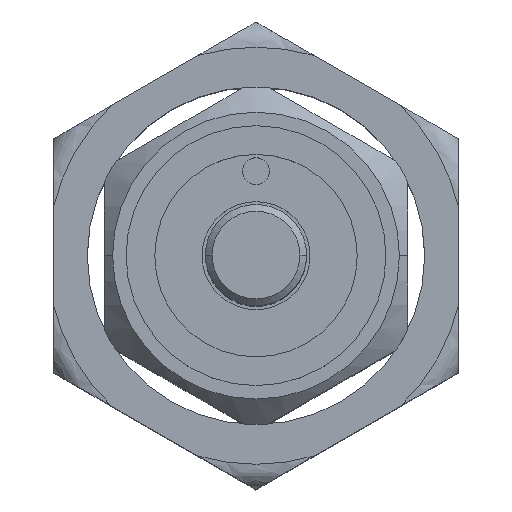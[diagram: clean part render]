
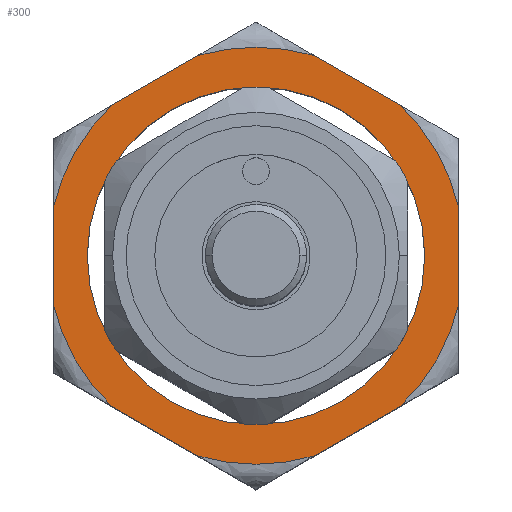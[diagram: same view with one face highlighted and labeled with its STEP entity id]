
A CAD part, top view. The second image highlights one B-rep face of the part: STEP entity #300.
In plain terms, the highlighted planar face has unit normal (0, 0, 1).
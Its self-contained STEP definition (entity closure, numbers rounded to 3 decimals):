
#9 = VECTOR ( 'NONE', #1923, 1000. ) ;
#38 = CARTESIAN_POINT ( 'NONE',  ( 6., 3.464, 1.5 ) ) ;
#42 = ORIENTED_EDGE ( 'NONE', *, *, #2252, .T. ) ;
#50 = AXIS2_PLACEMENT_3D ( 'NONE', #2752, #2087, #2103 ) ;
#52 = CARTESIAN_POINT ( 'NONE',  ( -5., 0., 1.5 ) ) ;
#62 = CARTESIAN_POINT ( 'NONE',  ( 0., 0., 1.5 ) ) ;
#65 = FACE_BOUND ( 'NONE', #651, .T. ) ;
#73 = ORIENTED_EDGE ( 'NONE', *, *, #1733, .T. ) ;
#78 = DIRECTION ( 'NONE',  ( 1., 0., 0. ) ) ;
#96 = EDGE_CURVE ( 'NONE', #738, #1986, #1861, .T. ) ;
#147 = ORIENTED_EDGE ( 'NONE', *, *, #494, .T. ) ;
#150 = AXIS2_PLACEMENT_3D ( 'NONE', #2158, #1271, #1978 ) ;
#177 = CARTESIAN_POINT ( 'NONE',  ( -6., -1.473, 1.5 ) ) ;
#203 = VERTEX_POINT ( 'NONE', #542 ) ;
#218 = CARTESIAN_POINT ( 'NONE',  ( 0., 0., 1.5 ) ) ;
#223 = EDGE_CURVE ( 'NONE', #229, #1201, #1283, .T. ) ;
#229 = VERTEX_POINT ( 'NONE', #764 ) ;
#253 = ORIENTED_EDGE ( 'NONE', *, *, #1080, .T. ) ;
#274 = EDGE_CURVE ( 'NONE', #636, #1286, #744, .T. ) ;
#300 = ADVANCED_FACE ( 'NONE', ( #65, #969 ), #1888, .T. ) ;
#301 = CARTESIAN_POINT ( 'NONE',  ( 6., -3.464, 1.5 ) ) ;
#312 = ORIENTED_EDGE ( 'NONE', *, *, #274, .T. ) ;
#313 = LINE ( 'NONE', #1625, #2903 ) ;
#338 = ORIENTED_EDGE ( 'NONE', *, *, #2684, .T. ) ;
#352 = CARTESIAN_POINT ( 'NONE',  ( 0., 0., 1.5 ) ) ;
#406 = VERTEX_POINT ( 'NONE', #806 ) ;
#473 = DIRECTION ( 'NONE',  ( 0., 0., 1. ) ) ;
#494 = EDGE_CURVE ( 'NONE', #2288, #636, #761, .T. ) ;
#542 = CARTESIAN_POINT ( 'NONE',  ( 1.724, -5.933, 1.5 ) ) ;
#571 = EDGE_CURVE ( 'NONE', #1286, #738, #707, .T. ) ;
#615 = AXIS2_PLACEMENT_3D ( 'NONE', #352, #1680, #2793 ) ;
#636 = VERTEX_POINT ( 'NONE', #1409 ) ;
#651 = EDGE_LOOP ( 'NONE', ( #2395, #751 ) ) ;
#670 = AXIS2_PLACEMENT_3D ( 'NONE', #1855, #2567, #1629 ) ;
#703 = VERTEX_POINT ( 'NONE', #802 ) ;
#707 = CIRCLE ( 'NONE', #50, 6.178 ) ;
#738 = VERTEX_POINT ( 'NONE', #1249 ) ;
#744 = LINE ( 'NONE', #301, #1045 ) ;
#751 = ORIENTED_EDGE ( 'NONE', *, *, #2895, .F. ) ;
#761 = CIRCLE ( 'NONE', #2795, 6.178 ) ;
#764 = CARTESIAN_POINT ( 'NONE',  ( -4.276, 4.46, 1.5 ) ) ;
#792 = EDGE_CURVE ( 'NONE', #703, #2427, #2746, .T. ) ;
#802 = CARTESIAN_POINT ( 'NONE',  ( 5., 0., 1.5 ) ) ;
#806 = CARTESIAN_POINT ( 'NONE',  ( -4.276, -4.46, 1.5 ) ) ;
#862 = DIRECTION ( 'NONE',  ( 1., 0., 0. ) ) ;
#883 = EDGE_CURVE ( 'NONE', #2318, #229, #2297, .T. ) ;
#902 = AXIS2_PLACEMENT_3D ( 'NONE', #2739, #1610, #78 ) ;
#917 = CIRCLE ( 'NONE', #1958, 6.178 ) ;
#928 = CARTESIAN_POINT ( 'NONE',  ( -6., 1.473, 1.5 ) ) ;
#957 = CARTESIAN_POINT ( 'NONE',  ( 0., 6.928, 1.5 ) ) ;
#963 = EDGE_LOOP ( 'NONE', ( #312, #1823, #2208, #42, #1111, #1337, #338, #1942, #991, #253, #73, #147 ) ) ;
#966 = DIRECTION ( 'NONE',  ( 1., 0., 0. ) ) ;
#969 = FACE_OUTER_BOUND ( 'NONE', #963, .T. ) ;
#991 = ORIENTED_EDGE ( 'NONE', *, *, #1544, .T. ) ;
#1017 = CARTESIAN_POINT ( 'NONE',  ( -6., -3.464, 1.5 ) ) ;
#1045 = VECTOR ( 'NONE', #1190, 1000. ) ;
#1080 = EDGE_CURVE ( 'NONE', #1289, #203, #1419, .T. ) ;
#1111 = ORIENTED_EDGE ( 'NONE', *, *, #883, .T. ) ;
#1190 = DIRECTION ( 'NONE',  ( 0., 1., 0. ) ) ;
#1201 = VERTEX_POINT ( 'NONE', #928 ) ;
#1206 = DIRECTION ( 'NONE',  ( 0.866, 0.5, 0. ) ) ;
#1249 = CARTESIAN_POINT ( 'NONE',  ( 4.276, 4.46, 1.5 ) ) ;
#1271 = DIRECTION ( 'NONE',  ( 0., 0., 1. ) ) ;
#1283 = CIRCLE ( 'NONE', #615, 6.178 ) ;
#1285 = VECTOR ( 'NONE', #2764, 1000. ) ;
#1286 = VERTEX_POINT ( 'NONE', #2475 ) ;
#1289 = VERTEX_POINT ( 'NONE', #2239 ) ;
#1298 = VECTOR ( 'NONE', #2693, 1000. ) ;
#1337 = ORIENTED_EDGE ( 'NONE', *, *, #223, .T. ) ;
#1409 = CARTESIAN_POINT ( 'NONE',  ( 6., -1.473, 1.5 ) ) ;
#1419 = CIRCLE ( 'NONE', #150, 6.178 ) ;
#1435 = EDGE_CURVE ( 'NONE', #2578, #406, #2276, .T. ) ;
#1485 = DIRECTION ( 'NONE',  ( 0.866, -0.5, 0. ) ) ;
#1517 = CARTESIAN_POINT ( 'NONE',  ( 0., 0., 1.5 ) ) ;
#1544 = EDGE_CURVE ( 'NONE', #406, #1289, #2429, .T. ) ;
#1610 = DIRECTION ( 'NONE',  ( 0., 0., 1. ) ) ;
#1625 = CARTESIAN_POINT ( 'NONE',  ( 0., -6.928, 1.5 ) ) ;
#1629 = DIRECTION ( 'NONE',  ( 1., 0., 0. ) ) ;
#1673 = DIRECTION ( 'NONE',  ( 0., 0., 1. ) ) ;
#1680 = DIRECTION ( 'NONE',  ( 0., 0., 1. ) ) ;
#1727 = CARTESIAN_POINT ( 'NONE',  ( 0., 0., 1.5 ) ) ;
#1733 = EDGE_CURVE ( 'NONE', #203, #2288, #313, .T. ) ;
#1760 = VECTOR ( 'NONE', #1485, 1000. ) ;
#1769 = AXIS2_PLACEMENT_3D ( 'NONE', #62, #1673, #966 ) ;
#1794 = LINE ( 'NONE', #1837, #1298 ) ;
#1823 = ORIENTED_EDGE ( 'NONE', *, *, #571, .T. ) ;
#1837 = CARTESIAN_POINT ( 'NONE',  ( -6., 3.464, 1.5 ) ) ;
#1855 = CARTESIAN_POINT ( 'NONE',  ( 0., 0., 1.5 ) ) ;
#1861 = LINE ( 'NONE', #38, #1285 ) ;
#1888 = PLANE ( 'NONE',  #902 ) ;
#1923 = DIRECTION ( 'NONE',  ( -0.866, -0.5, 0. ) ) ;
#1942 = ORIENTED_EDGE ( 'NONE', *, *, #1435, .T. ) ;
#1958 = AXIS2_PLACEMENT_3D ( 'NONE', #1727, #2846, #2587 ) ;
#1978 = DIRECTION ( 'NONE',  ( 1., 0., 0. ) ) ;
#1986 = VERTEX_POINT ( 'NONE', #2015 ) ;
#2015 = CARTESIAN_POINT ( 'NONE',  ( 1.724, 5.933, 1.5 ) ) ;
#2087 = DIRECTION ( 'NONE',  ( 0., 0., 1. ) ) ;
#2103 = DIRECTION ( 'NONE',  ( 1., 0., 0. ) ) ;
#2158 = CARTESIAN_POINT ( 'NONE',  ( 0., 0., 1.5 ) ) ;
#2208 = ORIENTED_EDGE ( 'NONE', *, *, #96, .T. ) ;
#2239 = CARTESIAN_POINT ( 'NONE',  ( -1.724, -5.933, 1.5 ) ) ;
#2240 = CARTESIAN_POINT ( 'NONE',  ( -1.724, 5.933, 1.5 ) ) ;
#2252 = EDGE_CURVE ( 'NONE', #1986, #2318, #917, .T. ) ;
#2276 = CIRCLE ( 'NONE', #670, 6.178 ) ;
#2288 = VERTEX_POINT ( 'NONE', #2418 ) ;
#2297 = LINE ( 'NONE', #957, #9 ) ;
#2318 = VERTEX_POINT ( 'NONE', #2240 ) ;
#2395 = ORIENTED_EDGE ( 'NONE', *, *, #792, .F. ) ;
#2418 = CARTESIAN_POINT ( 'NONE',  ( 4.276, -4.46, 1.5 ) ) ;
#2427 = VERTEX_POINT ( 'NONE', #52 ) ;
#2429 = LINE ( 'NONE', #1017, #1760 ) ;
#2475 = CARTESIAN_POINT ( 'NONE',  ( 6., 1.473, 1.5 ) ) ;
#2567 = DIRECTION ( 'NONE',  ( 0., 0., 1. ) ) ;
#2578 = VERTEX_POINT ( 'NONE', #177 ) ;
#2587 = DIRECTION ( 'NONE',  ( 1., 0., 0. ) ) ;
#2684 = EDGE_CURVE ( 'NONE', #1201, #2578, #1794, .T. ) ;
#2693 = DIRECTION ( 'NONE',  ( 0., -1., 0. ) ) ;
#2739 = CARTESIAN_POINT ( 'NONE',  ( 0., 6.928, 1.5 ) ) ;
#2746 = CIRCLE ( 'NONE', #2900, 5. ) ;
#2752 = CARTESIAN_POINT ( 'NONE',  ( 0., 0., 1.5 ) ) ;
#2764 = DIRECTION ( 'NONE',  ( -0.866, 0.5, 0. ) ) ;
#2793 = DIRECTION ( 'NONE',  ( 1., 0., 0. ) ) ;
#2795 = AXIS2_PLACEMENT_3D ( 'NONE', #218, #2898, #862 ) ;
#2846 = DIRECTION ( 'NONE',  ( 0., 0., 1. ) ) ;
#2895 = EDGE_CURVE ( 'NONE', #2427, #703, #2911, .T. ) ;
#2898 = DIRECTION ( 'NONE',  ( 0., 0., 1. ) ) ;
#2900 = AXIS2_PLACEMENT_3D ( 'NONE', #1517, #473, #2921 ) ;
#2903 = VECTOR ( 'NONE', #1206, 1000. ) ;
#2911 = CIRCLE ( 'NONE', #1769, 5. ) ;
#2921 = DIRECTION ( 'NONE',  ( 1., 0., 0. ) ) ;
